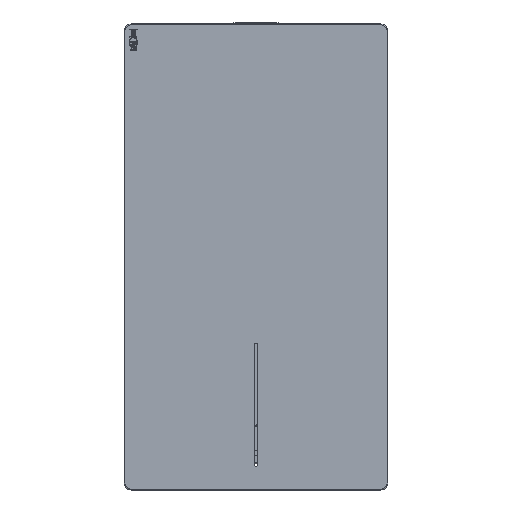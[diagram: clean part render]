
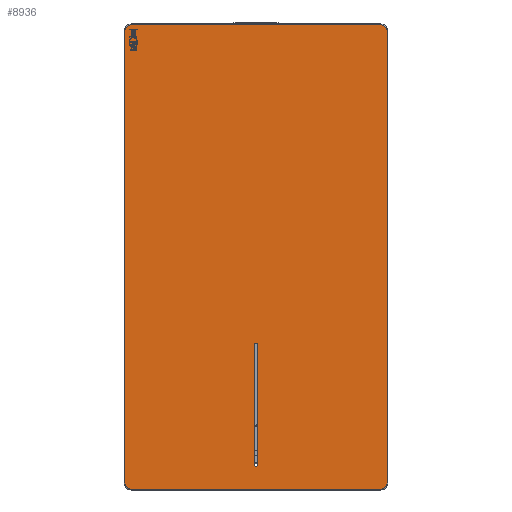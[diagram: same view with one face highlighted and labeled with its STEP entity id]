
A CAD part, top view. The second image highlights one B-rep face of the part: STEP entity #8936.
In plain terms, the highlighted planar face has unit normal (0, 0, 1).
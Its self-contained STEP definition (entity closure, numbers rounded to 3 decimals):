
#117=FACE_BOUND('',#3219,.T.);
#192=PLANE('',#9511);
#554=LINE('',#13086,#1538);
#556=LINE('',#13098,#1540);
#558=LINE('',#13110,#1542);
#560=LINE('',#13119,#1544);
#568=LINE('',#13141,#1552);
#569=LINE('',#13145,#1553);
#1538=VECTOR('',#10366,514.);
#1540=VECTOR('',#10380,284.);
#1542=VECTOR('',#10394,514.);
#1544=VECTOR('',#10406,284.);
#1552=VECTOR('',#10428,136.);
#1553=VECTOR('',#10431,136.);
#2679=FACE_OUTER_BOUND('',#3218,.T.);
#3218=EDGE_LOOP('',(#6328,#6329,#6330,#6331,#6332,#6333,#6334,#6335));
#3219=EDGE_LOOP('',(#6336,#6337,#6338,#6339));
#3819=CIRCLE('',#9483,7.);
#3825=CIRCLE('',#9491,7.);
#3829=CIRCLE('',#9497,7.);
#3833=CIRCLE('',#9503,7.);
#3836=CIRCLE('',#9512,2.15);
#3837=CIRCLE('',#9513,2.15);
#4135=VERTEX_POINT('',#13074);
#4136=VERTEX_POINT('',#13076);
#4138=VERTEX_POINT('',#13082);
#4140=VERTEX_POINT('',#13088);
#4142=VERTEX_POINT('',#13094);
#4144=VERTEX_POINT('',#13100);
#4146=VERTEX_POINT('',#13106);
#4148=VERTEX_POINT('',#13112);
#4155=VERTEX_POINT('',#13139);
#4156=VERTEX_POINT('',#13140);
#4157=VERTEX_POINT('',#13142);
#4158=VERTEX_POINT('',#13144);
#4969=EDGE_CURVE('',#4135,#4136,#3819,.T.);
#4974=EDGE_CURVE('',#4136,#4138,#554,.T.);
#4977=EDGE_CURVE('',#4138,#4140,#3825,.T.);
#4980=EDGE_CURVE('',#4140,#4142,#556,.T.);
#4983=EDGE_CURVE('',#4142,#4144,#3829,.T.);
#4986=EDGE_CURVE('',#4144,#4146,#558,.T.);
#4989=EDGE_CURVE('',#4146,#4148,#3833,.T.);
#4991=EDGE_CURVE('',#4148,#4135,#560,.T.);
#5001=EDGE_CURVE('',#4155,#4156,#568,.T.);
#5002=EDGE_CURVE('',#4156,#4157,#3836,.T.);
#5003=EDGE_CURVE('',#4157,#4158,#569,.T.);
#5004=EDGE_CURVE('',#4158,#4155,#3837,.T.);
#6328=ORIENTED_EDGE('',*,*,#4969,.F.);
#6329=ORIENTED_EDGE('',*,*,#4991,.F.);
#6330=ORIENTED_EDGE('',*,*,#4989,.F.);
#6331=ORIENTED_EDGE('',*,*,#4986,.F.);
#6332=ORIENTED_EDGE('',*,*,#4983,.F.);
#6333=ORIENTED_EDGE('',*,*,#4980,.F.);
#6334=ORIENTED_EDGE('',*,*,#4977,.F.);
#6335=ORIENTED_EDGE('',*,*,#4974,.F.);
#6336=ORIENTED_EDGE('',*,*,#5001,.T.);
#6337=ORIENTED_EDGE('',*,*,#5002,.T.);
#6338=ORIENTED_EDGE('',*,*,#5003,.T.);
#6339=ORIENTED_EDGE('',*,*,#5004,.T.);
#8936=ADVANCED_FACE('',(#2679,#117),#192,.T.);
#9483=AXIS2_PLACEMENT_3D('',#13077,#10355,#10356);
#9491=AXIS2_PLACEMENT_3D('',#13092,#10373,#10374);
#9497=AXIS2_PLACEMENT_3D('',#13104,#10387,#10388);
#9503=AXIS2_PLACEMENT_3D('',#13116,#10401,#10402);
#9511=AXIS2_PLACEMENT_3D('',#13138,#10426,#10427);
#9512=AXIS2_PLACEMENT_3D('',#13143,#10429,#10430);
#9513=AXIS2_PLACEMENT_3D('',#13146,#10432,#10433);
#10355=DIRECTION('center_axis',(0.,0.,-1.));
#10356=DIRECTION('ref_axis',(0.707,0.707,0.));
#10366=DIRECTION('',(0.,-1.,0.));
#10373=DIRECTION('center_axis',(0.,0.,-1.));
#10374=DIRECTION('ref_axis',(0.707,-0.707,0.));
#10380=DIRECTION('',(-1.,0.,0.));
#10387=DIRECTION('center_axis',(0.,0.,-1.));
#10388=DIRECTION('ref_axis',(-0.707,-0.707,0.));
#10394=DIRECTION('',(0.,1.,0.));
#10401=DIRECTION('center_axis',(0.,0.,-1.));
#10402=DIRECTION('ref_axis',(-0.707,0.707,0.));
#10406=DIRECTION('',(1.,0.,0.));
#10426=DIRECTION('center_axis',(0.,0.,1.));
#10427=DIRECTION('ref_axis',(1.,0.,0.));
#10428=DIRECTION('',(0.,1.,0.));
#10429=DIRECTION('center_axis',(0.,0.,-1.));
#10430=DIRECTION('ref_axis',(-1.,0.,0.));
#10431=DIRECTION('',(0.,-1.,0.));
#10432=DIRECTION('center_axis',(0.,0.,-1.));
#10433=DIRECTION('ref_axis',(-1.,0.,0.));
#13074=CARTESIAN_POINT('',(142.,264.,3.));
#13076=CARTESIAN_POINT('',(149.,257.,3.));
#13077=CARTESIAN_POINT('Origin',(142.,257.,3.));
#13082=CARTESIAN_POINT('',(149.,-257.,3.));
#13086=CARTESIAN_POINT('',(149.,132.5,3.));
#13088=CARTESIAN_POINT('',(142.,-264.,3.));
#13092=CARTESIAN_POINT('Origin',(142.,-257.,3.));
#13094=CARTESIAN_POINT('',(-142.,-264.,3.));
#13098=CARTESIAN_POINT('',(75.,-264.,3.));
#13100=CARTESIAN_POINT('',(-149.,-257.,3.));
#13104=CARTESIAN_POINT('Origin',(-142.,-257.,3.));
#13106=CARTESIAN_POINT('',(-149.,257.,3.));
#13110=CARTESIAN_POINT('',(-149.,-132.5,3.));
#13112=CARTESIAN_POINT('',(-142.,264.,3.));
#13116=CARTESIAN_POINT('Origin',(-142.,257.,3.));
#13119=CARTESIAN_POINT('',(-75.,264.,3.));
#13138=CARTESIAN_POINT('Origin',(0.,0.,
3.));
#13139=CARTESIAN_POINT('',(-2.15,-236.,3.));
#13140=CARTESIAN_POINT('',(-2.15,-100.,3.));
#13141=CARTESIAN_POINT('',(-2.15,-118.,3.));
#13142=CARTESIAN_POINT('',(2.15,-100.,3.));
#13143=CARTESIAN_POINT('Origin',(0.,-100.,3.));
#13144=CARTESIAN_POINT('',(2.15,-236.,3.));
#13145=CARTESIAN_POINT('',(2.15,-50.,3.));
#13146=CARTESIAN_POINT('Origin',(0.,-236.,3.));
